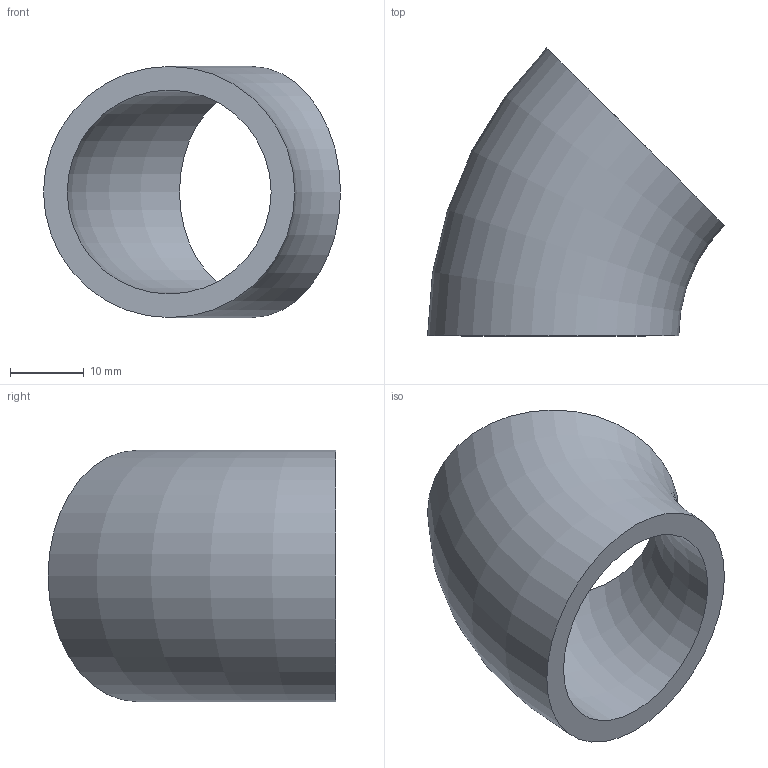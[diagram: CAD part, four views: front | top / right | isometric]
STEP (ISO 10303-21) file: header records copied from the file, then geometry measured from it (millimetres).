
FILE_DESCRIPTION(/* description */ (''),/* implementation_level */ '2;1');
FILE_NAME(/* name */ 'C:\Users\D\Documents\Inventor\HP\JIS\配管\エルボ ロング 45°\SGP\Elbow45-long-25A-SGP.stp',/* time_stamp */ '2022-06-08T16:59:34+09:00',/* author */ ('D'),/* organization */ (''),/* preprocessor_version */ 'ST-DEVELOPER v18',/* originating_system */ 'Autodesk Inventor 2020',/* authorisation */ '');
FILE_SCHEMA (('AUTOMOTIVE_DESIGN { 1 0 10303 214 3 1 1 }'));
Length unit declared in the file: millimetre
Products named in the file (1): Elbow-long-90-15A-SGP
Bounding box: 40.18 x 38.96 x 34 mm (x, y, z)
Volume: 9265.4 mm3; surface area: 6410.2 mm2
Topology: 1 solids, 1 shells, 4 faces, 10 edges, 8 vertices
Faces by surface type: torus 2, plane 2
Entity records: 181 total; most frequent: DIRECTION 30, CARTESIAN_POINT 23, ORIENTED_EDGE 20, AXIS2_PLACEMENT_3D 15, CIRCLE 10, EDGE_CURVE 10, VERTEX_POINT 8, EDGE_LOOP 6
